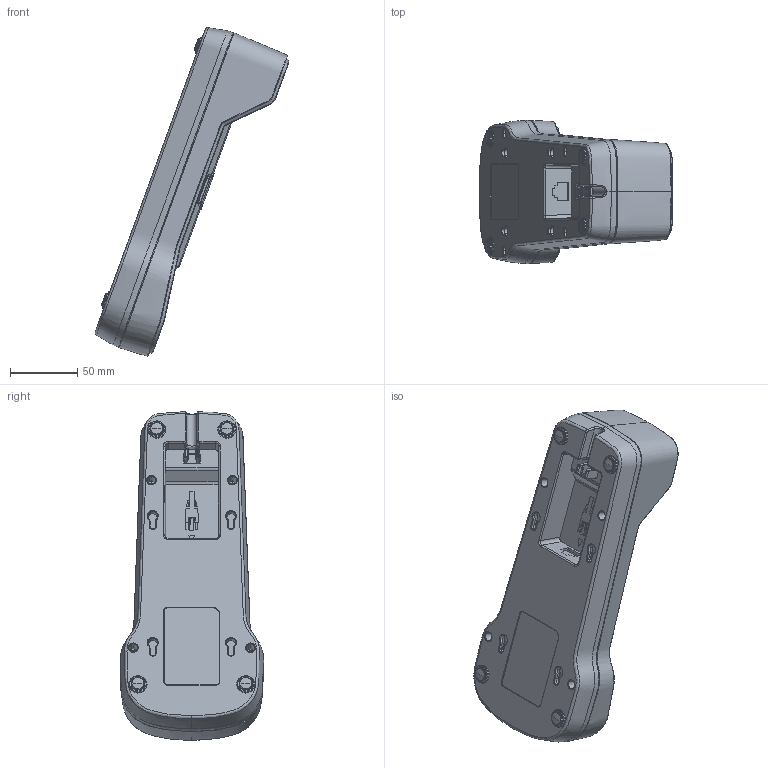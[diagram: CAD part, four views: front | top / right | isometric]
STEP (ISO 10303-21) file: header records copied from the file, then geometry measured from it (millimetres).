
FILE_DESCRIPTION((''),'2;1');
FILE_NAME('00-DP8620001','2022-04-02T19:01:30',('guodanfeng'),(''),'CREO PARAMETRIC BY PTC INC, 2017260','CREO PARAMETRIC BY PTC INC, 2017260','');
FILE_SCHEMA(('CONFIG_CONTROL_DESIGN'));
Products named in the file (1): 00-DP8620001
Bounding box: 143.58 x 106.13 x 243.45 mm (x, y, z)
Surface area: 204288.6 mm2 (no closed solid volume)
Topology: 0 solids, 39 shells, 2071 faces, 6321 edges, 4236 vertices
Faces by surface type: plane 1024, cylinder 412, bspline 288, cone 206, torus 88, extrusion 37, sphere 16
Entity records: 224949 total; most frequent: CARTESIAN_POINT 172127, ORIENTED_EDGE 11742, DIRECTION 9424, EDGE_CURVE 6305, VERTEX_POINT 4236, VECTOR 3364, LINE 3327, AXIS2_PLACEMENT_3D 3030
